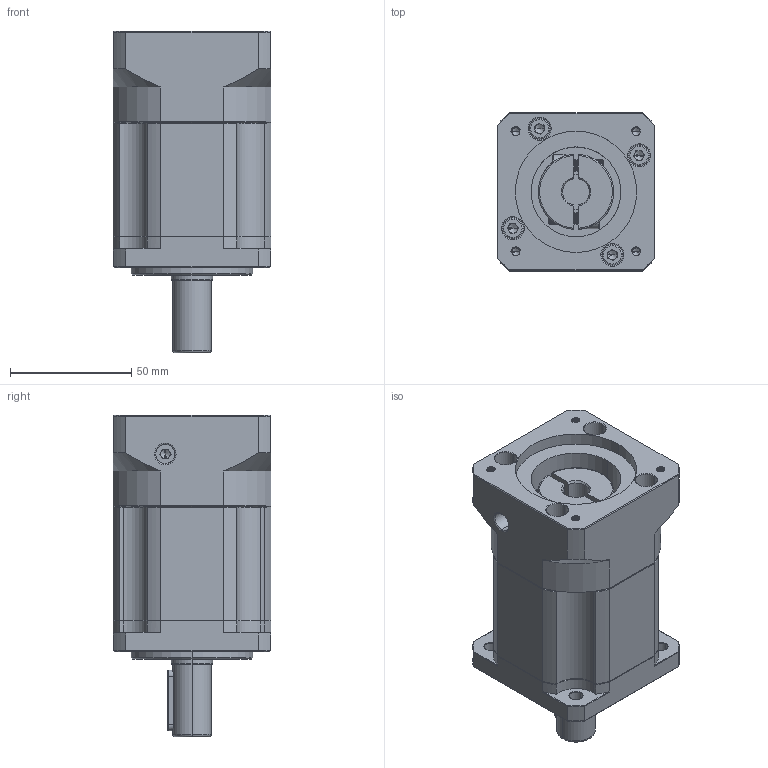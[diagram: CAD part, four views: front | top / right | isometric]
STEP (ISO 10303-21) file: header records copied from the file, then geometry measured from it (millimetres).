
FILE_DESCRIPTION (( 'STEP AP214' ), '1' );
FILE_NAME ('ZB060-D16-L2-P2-11-50-70-M4.step', '2023-08-16T07:05:44', ( '' ), ( '' ), 'SwSTEP 2.0', 'SolidWorks 2016', '' );
FILE_SCHEMA (( 'AUTOMOTIVE_DESIGN' ));
Length unit declared in the file: millimetre
Products named in the file (1): ZB060-D16-L2-P2-11-50-70-M4
Bounding box: 65 x 65 x 132.5 mm (x, y, z)
Volume: 331289.6 mm3; surface area: 58722.3 mm2
Topology: 6 solids, 6 shells, 2152 faces, 5796 edges, 3732 vertices
Faces by surface type: plane 1059, bspline 397, cylinder 381, cone 281, torus 34
Entity records: 114772 total; most frequent: CARTESIAN_POINT 40221, ORIENTED_EDGE 11532, DIRECTION 9080, EDGE_CURVE 5766, VERTEX_POINT 3732, VECTOR 3634, LINE 3634, AXIS2_PLACEMENT_3D 2723
